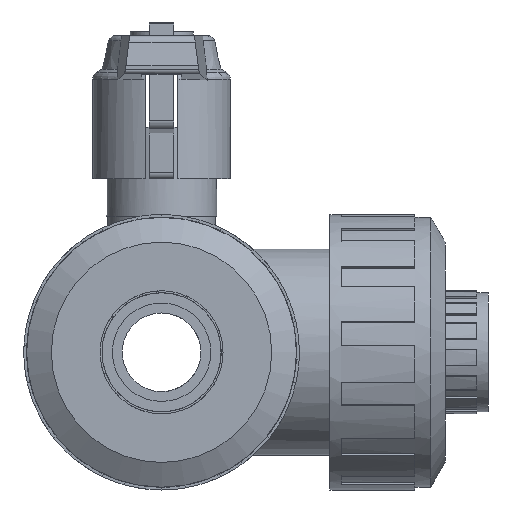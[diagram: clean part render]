
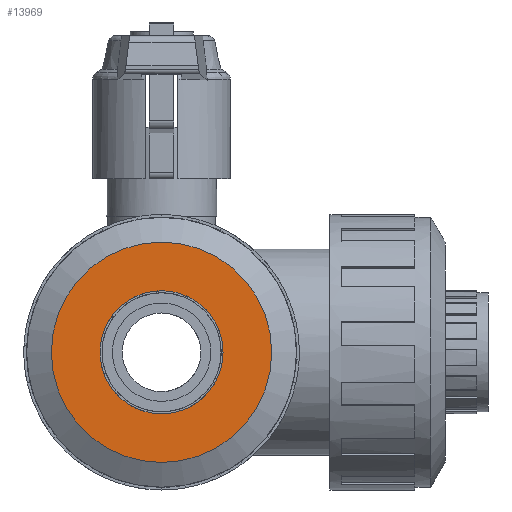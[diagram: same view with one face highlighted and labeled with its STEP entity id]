
A CAD part, left-side view. The second image highlights one B-rep face of the part: STEP entity #13969.
In plain terms, the highlighted planar face has unit normal (-1, 0, 0).
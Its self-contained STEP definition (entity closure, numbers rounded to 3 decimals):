
#3685=CARTESIAN_POINT('',(-72.052,0.,-15.625));
#3686=VERTEX_POINT('',#3685);
#3687=CARTESIAN_POINT('',(-72.052,0.0,0.0));
#3688=DIRECTION('',(-1.0,0.0,0.0));
#3689=DIRECTION('',(0.0,0.0,1.0));
#3690=AXIS2_PLACEMENT_3D('',#3687,#3688,#3689);
#3691=CIRCLE('',#3690,15.625);
#3692=EDGE_CURVE('',#3686,#3686,#3691,.T.);
#3713=CARTESIAN_POINT('',(-72.052,0.,-28.));
#3714=VERTEX_POINT('',#3713);
#3715=CARTESIAN_POINT('',(-72.052,0.0,0.0));
#3716=DIRECTION('',(-1.0,0.0,0.0));
#3717=DIRECTION('',(0.0,0.0,1.0));
#3718=AXIS2_PLACEMENT_3D('',#3715,#3716,#3717);
#3719=CIRCLE('',#3718,28.);
#3720=EDGE_CURVE('',#3714,#3714,#3719,.T.);
#13958=CARTESIAN_POINT('',(-72.052,0.0,21.813));
#13959=DIRECTION('',(-1.0,0.0,0.0));
#13960=DIRECTION('',(0.0,0.0,1.0));
#13961=AXIS2_PLACEMENT_3D('',#13958,#13959,#13960);
#13962=PLANE('',#13961);
#13963=ORIENTED_EDGE('',*,*,#3720,.T.);
#13964=EDGE_LOOP('',(#13963));
#13965=FACE_OUTER_BOUND('',#13964,.T.);
#13966=ORIENTED_EDGE('',*,*,#3692,.F.);
#13967=EDGE_LOOP('',(#13966));
#13968=FACE_BOUND('',#13967,.T.);
#13969=ADVANCED_FACE('',(#13965,#13968),#13962,.T.);
